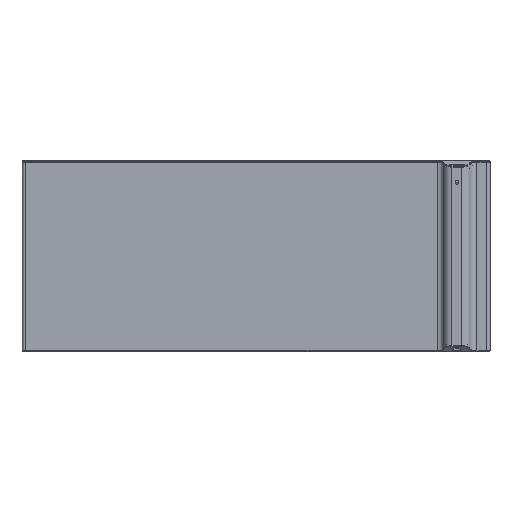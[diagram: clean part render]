
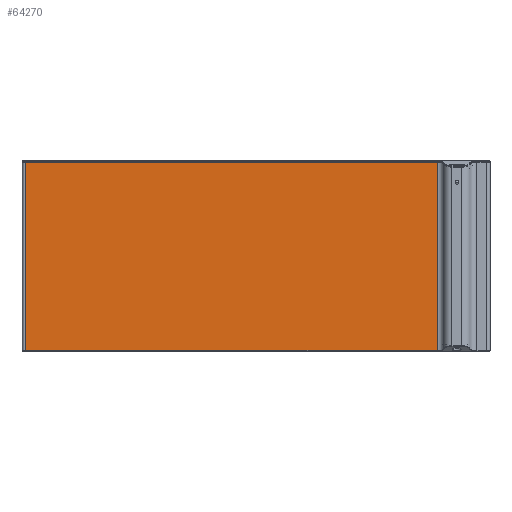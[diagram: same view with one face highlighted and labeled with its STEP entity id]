
A CAD part, top view. The second image highlights one B-rep face of the part: STEP entity #64270.
In plain terms, the highlighted planar face has unit normal (0, 0, 1).
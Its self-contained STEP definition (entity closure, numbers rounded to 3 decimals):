
#63732 = VERTEX_POINT('',#63733);
#63733 = CARTESIAN_POINT('',(480.562,-250.,30.));
#63750 = EDGE_CURVE('',#63732,#63751,#63753,.T.);
#63751 = VERTEX_POINT('',#63752);
#63752 = CARTESIAN_POINT('',(480.562,250.,30.));
#63753 = LINE('',#63754,#63755);
#63754 = CARTESIAN_POINT('',(480.562,-250.,30.));
#63755 = VECTOR('',#63756,1.);
#63756 = DIRECTION('',(0.,1.,0.));
#64000 = EDGE_CURVE('',#63751,#64001,#64003,.T.);
#64001 = VERTEX_POINT('',#64002);
#64002 = CARTESIAN_POINT('',(479.737,250.,30.));
#64003 = LINE('',#64004,#64005);
#64004 = CARTESIAN_POINT('',(480.562,250.,30.));
#64005 = VECTOR('',#64006,1.);
#64006 = DIRECTION('',(-1.,0.,0.));
#64192 = EDGE_CURVE('',#64193,#64195,#64197,.T.);
#64193 = VERTEX_POINT('',#64194);
#64194 = CARTESIAN_POINT('',(-611.546,-248.8,30.));
#64195 = VERTEX_POINT('',#64196);
#64196 = CARTESIAN_POINT('',(-612.,-248.8,30.));
#64197 = LINE('',#64198,#64199);
#64198 = CARTESIAN_POINT('',(-611.546,-248.8,30.));
#64199 = VECTOR('',#64200,1.);
#64200 = DIRECTION('',(-1.,0.,0.));
#64252 = EDGE_CURVE('',#64193,#64253,#64255,.T.);
#64253 = VERTEX_POINT('',#64254);
#64254 = CARTESIAN_POINT('',(-611.546,-250.3,30.));
#64255 = LINE('',#64256,#64257);
#64256 = CARTESIAN_POINT('',(-611.546,-248.8,30.));
#64257 = VECTOR('',#64258,1.);
#64258 = DIRECTION('',(0.,-1.,0.));
#64270 = ADVANCED_FACE('',(#64271),#64345,.T.);
#64271 = FACE_BOUND('',#64272,.F.);
#64272 = EDGE_LOOP('',(#64273,#64274,#64282,#64290,#64298,#64306,#64312,
    #64313,#64314,#64322,#64330,#64338,#64344));
#64273 = ORIENTED_EDGE('',*,*,#64192,.T.);
#64274 = ORIENTED_EDGE('',*,*,#64275,.F.);
#64275 = EDGE_CURVE('',#64276,#64195,#64278,.T.);
#64276 = VERTEX_POINT('',#64277);
#64277 = CARTESIAN_POINT('',(-612.,250.,30.));
#64278 = LINE('',#64279,#64280);
#64279 = CARTESIAN_POINT('',(-612.,250.,30.));
#64280 = VECTOR('',#64281,1.);
#64281 = DIRECTION('',(0.,-1.,0.));
#64282 = ORIENTED_EDGE('',*,*,#64283,.T.);
#64283 = EDGE_CURVE('',#64276,#64284,#64286,.T.);
#64284 = VERTEX_POINT('',#64285);
#64285 = CARTESIAN_POINT('',(-611.437,250.,30.));
#64286 = LINE('',#64287,#64288);
#64287 = CARTESIAN_POINT('',(-612.,250.,30.));
#64288 = VECTOR('',#64289,1.);
#64289 = DIRECTION('',(1.,0.,0.));
#64290 = ORIENTED_EDGE('',*,*,#64291,.T.);
#64291 = EDGE_CURVE('',#64284,#64292,#64294,.T.);
#64292 = VERTEX_POINT('',#64293);
#64293 = CARTESIAN_POINT('',(-611.,248.8,30.));
#64294 = LINE('',#64295,#64296);
#64295 = CARTESIAN_POINT('',(-611.437,250.,30.));
#64296 = VECTOR('',#64297,1.);
#64297 = DIRECTION('',(0.342,-0.94,0.));
#64298 = ORIENTED_EDGE('',*,*,#64299,.F.);
#64299 = EDGE_CURVE('',#64300,#64292,#64302,.T.);
#64300 = VERTEX_POINT('',#64301);
#64301 = CARTESIAN_POINT('',(479.3,248.8,30.));
#64302 = LINE('',#64303,#64304);
#64303 = CARTESIAN_POINT('',(479.3,248.8,30.));
#64304 = VECTOR('',#64305,1.);
#64305 = DIRECTION('',(-1.,0.,0.));
#64306 = ORIENTED_EDGE('',*,*,#64307,.F.);
#64307 = EDGE_CURVE('',#64001,#64300,#64308,.T.);
#64308 = LINE('',#64309,#64310);
#64309 = CARTESIAN_POINT('',(479.737,250.,30.));
#64310 = VECTOR('',#64311,1.);
#64311 = DIRECTION('',(-0.342,-0.94,0.));
#64312 = ORIENTED_EDGE('',*,*,#64000,.F.);
#64313 = ORIENTED_EDGE('',*,*,#63750,.F.);
#64314 = ORIENTED_EDGE('',*,*,#64315,.T.);
#64315 = EDGE_CURVE('',#63732,#64316,#64318,.T.);
#64316 = VERTEX_POINT('',#64317);
#64317 = CARTESIAN_POINT('',(475.437,-250.,30.));
#64318 = LINE('',#64319,#64320);
#64319 = CARTESIAN_POINT('',(480.562,-250.,30.));
#64320 = VECTOR('',#64321,1.);
#64321 = DIRECTION('',(-1.,0.,0.));
#64322 = ORIENTED_EDGE('',*,*,#64323,.T.);
#64323 = EDGE_CURVE('',#64316,#64324,#64326,.T.);
#64324 = VERTEX_POINT('',#64325);
#64325 = CARTESIAN_POINT('',(475.,-248.8,30.));
#64326 = LINE('',#64327,#64328);
#64327 = CARTESIAN_POINT('',(475.437,-250.,30.));
#64328 = VECTOR('',#64329,1.);
#64329 = DIRECTION('',(-0.342,0.94,0.));
#64330 = ORIENTED_EDGE('',*,*,#64331,.F.);
#64331 = EDGE_CURVE('',#64332,#64324,#64334,.T.);
#64332 = VERTEX_POINT('',#64333);
#64333 = CARTESIAN_POINT('',(-611.,-248.8,30.));
#64334 = LINE('',#64335,#64336);
#64335 = CARTESIAN_POINT('',(-611.,-248.8,30.));
#64336 = VECTOR('',#64337,1.);
#64337 = DIRECTION('',(1.,0.,0.));
#64338 = ORIENTED_EDGE('',*,*,#64339,.F.);
#64339 = EDGE_CURVE('',#64253,#64332,#64340,.T.);
#64340 = LINE('',#64341,#64342);
#64341 = CARTESIAN_POINT('',(-611.546,-250.3,30.));
#64342 = VECTOR('',#64343,1.);
#64343 = DIRECTION('',(0.342,0.94,0.));
#64344 = ORIENTED_EDGE('',*,*,#64252,.F.);
#64345 = PLANE('',#64346);
#64346 = AXIS2_PLACEMENT_3D('',#64347,#64348,#64349);
#64347 = CARTESIAN_POINT('',(-620.,-250.,30.));
#64348 = DIRECTION('',(0.,0.,1.));
#64349 = DIRECTION('',(1.,0.,-0.));
